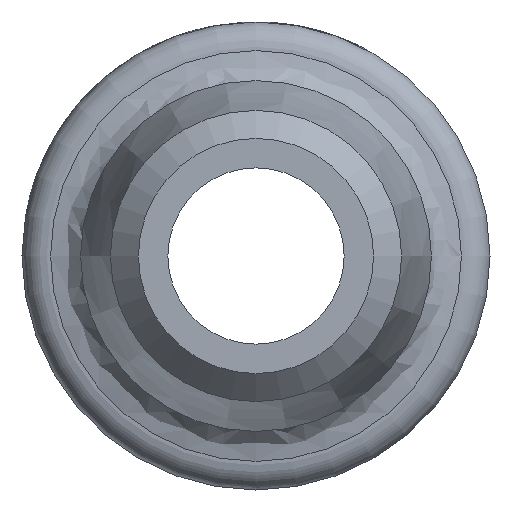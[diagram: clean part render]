
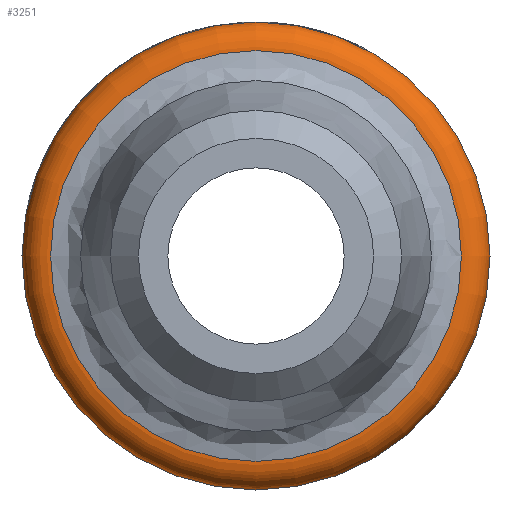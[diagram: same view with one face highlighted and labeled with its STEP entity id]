
A CAD part, left-side view. The second image highlights one B-rep face of the part: STEP entity #3251.
In plain terms, the highlighted toroidal (fillet/blend) face has major radius 2.803 mm and minor radius 0.382 mm.
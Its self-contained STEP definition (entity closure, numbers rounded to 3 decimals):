
#2578=CARTESIAN_POINT('',(-16.489,-2.043,0.0));
#2579=VERTEX_POINT('',#2578);
#2580=CARTESIAN_POINT('',(-16.489,1.142,0.0));
#2581=DIRECTION('',(-1.0,0.0,0.0));
#2582=DIRECTION('',(0.0,-1.0,0.0));
#2583=AXIS2_PLACEMENT_3D('',#2580,#2581,#2582);
#2584=CIRCLE('',#2583,3.185);
#2585=EDGE_CURVE('',#2579,#2579,#2584,.T.);
#3232=CARTESIAN_POINT('',(-16.489,1.142,0.0));
#3233=DIRECTION('',(-1.0,0.,0.0));
#3234=DIRECTION('',(0.0,0.0,1.0));
#3235=AXIS2_PLACEMENT_3D('',#3232,#3233,#3234);
#3236=TOROIDAL_SURFACE('',#3235,2.803,0.382);
#3237=CARTESIAN_POINT('',(-16.871,-1.654,0.0));
#3238=VERTEX_POINT('',#3237);
#3239=CARTESIAN_POINT('',(-16.871,1.142,0.0));
#3240=DIRECTION('',(-1.0,0.0,0.0));
#3241=DIRECTION('',(0.0,-1.0,0.0));
#3242=AXIS2_PLACEMENT_3D('',#3239,#3240,#3241);
#3243=CIRCLE('',#3242,2.796);
#3244=EDGE_CURVE('',#3238,#3238,#3243,.T.);
#3245=ORIENTED_EDGE('',*,*,#3244,.F.);
#3246=EDGE_LOOP('',(#3245));
#3247=FACE_OUTER_BOUND('',#3246,.T.);
#3248=ORIENTED_EDGE('',*,*,#2585,.T.);
#3249=EDGE_LOOP('',(#3248));
#3250=FACE_BOUND('',#3249,.T.);
#3251=ADVANCED_FACE('',(#3247,#3250),#3236,.T.);
